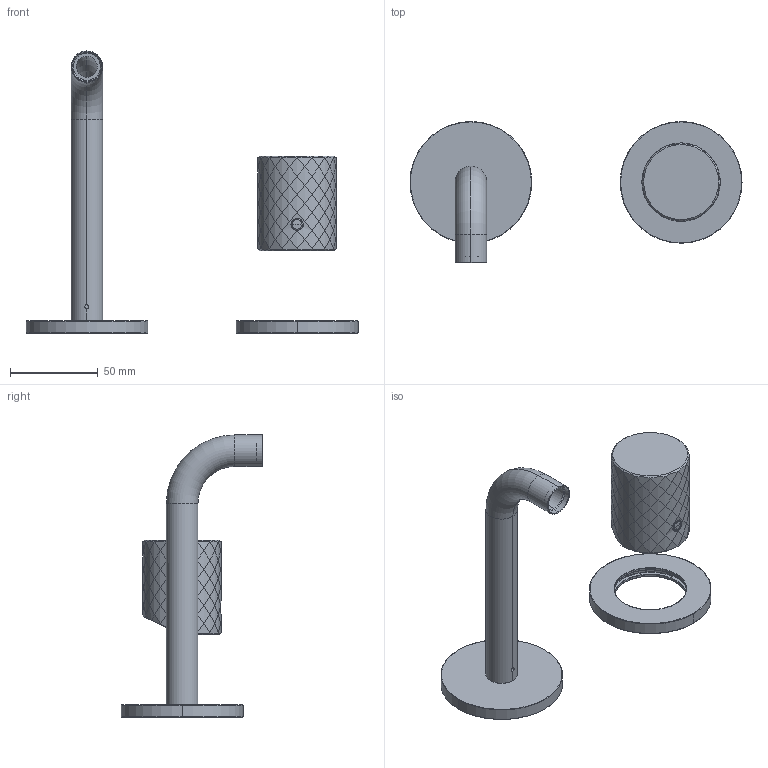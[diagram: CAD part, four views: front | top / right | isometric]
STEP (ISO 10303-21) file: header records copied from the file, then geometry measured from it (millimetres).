
FILE_DESCRIPTION((''),'2;1');
FILE_NAME('F3051X9X_FILE_3D','2019-02-19T',('ivanv'),(''),'CREO PARAMETRIC BY PTC INC, 2016260','CREO PARAMETRIC BY PTC INC, 2016260','');
FILE_SCHEMA(('CONFIG_CONTROL_DESIGN'));
Length unit declared in the file: millimetre
Products named in the file (1): F3051X9X_FILE_3D
Bounding box: 189.5 x 80.75 x 161 mm (x, y, z)
Volume: 65101.2 mm3; surface area: 57206.7 mm2
Topology: 3 solids, 3 shells, 459 faces, 1232 edges, 784 vertices
Faces by surface type: cylinder 287, torus 58, plane 51, cone 34, bspline 27, sphere 2
Entity records: 32547 total; most frequent: CARTESIAN_POINT 22338, ORIENTED_EDGE 2456, DIRECTION 1649, EDGE_CURVE 1228, VERTEX_POINT 784, B_SPLINE_CURVE_WITH_KNOTS 732, AXIS2_PLACEMENT_3D 721, EDGE_LOOP 484
